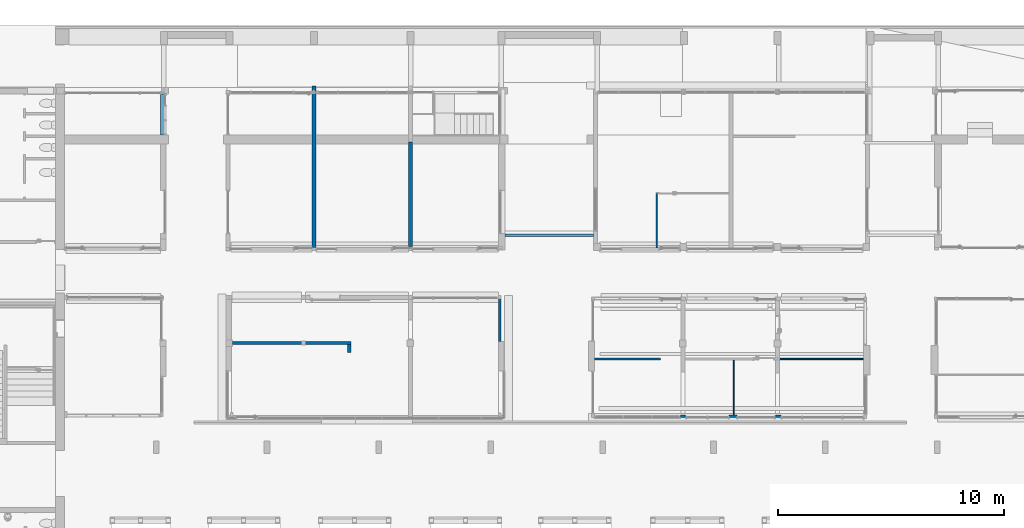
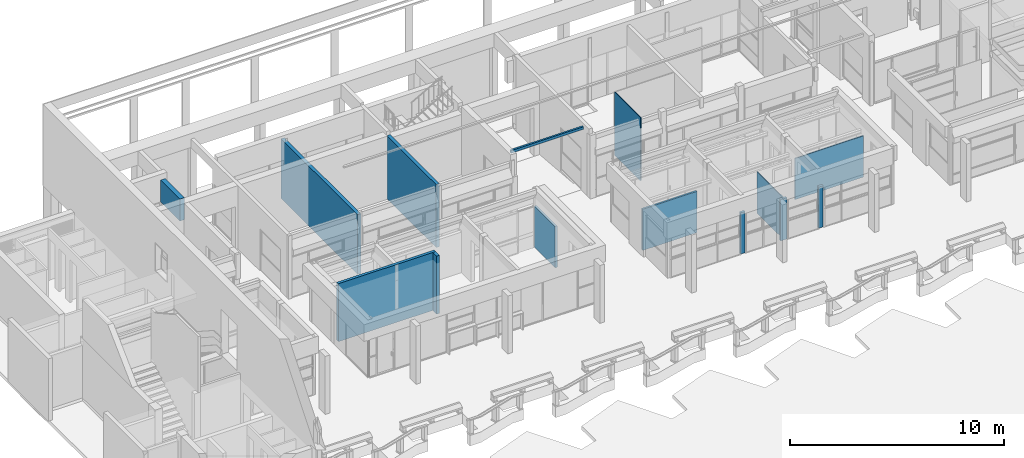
# One storey, part 68 of 117: 14 walls.
"""IFC4 building model written with IfcOpenShell, lengths in metres."""

from ifc_helpers import new_model, entity, si_unit, converted_unit, derived_unit, direction, frame, origin, place, context, subcontext, project, spatial, indexed_curve, outline, extrude, material, type_object, element, save


model = new_model("IFC4")

# Units and contexts
model_context = context("Model", 3, precision=1e-05, world=origin(), true_north=direction((6.123031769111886e-17, 1.0)))
body_context = subcontext(model_context, "Body", "Model", "MODEL_VIEW")
ifc_project = project(units=[si_unit("LENGTHUNIT", "METRE"), si_unit("AREAUNIT", "SQUARE_METRE"), si_unit("VOLUMEUNIT", "CUBIC_METRE"), converted_unit("PLANEANGLEUNIT", "DEGREE", entity("IfcRatioMeasure", 0.017453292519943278), si_unit("PLANEANGLEUNIT", "RADIAN"), dimensions=[0, 0, 0, 0, 0, 0, 0]), si_unit("MASSUNIT", "GRAM", prefix="KILO"), derived_unit("MASSDENSITYUNIT", [(si_unit("MASSUNIT", "GRAM", prefix="KILO"), 1), (si_unit("LENGTHUNIT", "METRE"), -3)]), derived_unit("MOMENTOFINERTIAUNIT", [(si_unit("LENGTHUNIT", "METRE"), 4)]), si_unit("TIMEUNIT", "SECOND"), si_unit("FREQUENCYUNIT", "HERTZ"), si_unit("THERMODYNAMICTEMPERATUREUNIT", "DEGREE_CELSIUS"), derived_unit("THERMALTRANSMITTANCEUNIT", [(si_unit("MASSUNIT", "GRAM", prefix="KILO"), 1), (si_unit("THERMODYNAMICTEMPERATUREUNIT", "KELVIN"), -1), (si_unit("TIMEUNIT", "SECOND"), -3)]), derived_unit("VOLUMETRICFLOWRATEUNIT", [(si_unit("LENGTHUNIT", "METRE"), 3), (si_unit("TIMEUNIT", "SECOND"), -1)]), derived_unit("MASSFLOWRATEUNIT", [(si_unit("MASSUNIT", "GRAM", prefix="KILO"), 1), (si_unit("TIMEUNIT", "SECOND"), -1)]), derived_unit("ROTATIONALFREQUENCYUNIT", [(si_unit("TIMEUNIT", "SECOND"), -1)]), si_unit("ELECTRICCURRENTUNIT", "AMPERE"), si_unit("ELECTRICVOLTAGEUNIT", "VOLT"), si_unit("POWERUNIT", "WATT"), si_unit("FORCEUNIT", "NEWTON", prefix="KILO"), si_unit("ILLUMINANCEUNIT", "LUX"), si_unit("LUMINOUSFLUXUNIT", "LUMEN"), si_unit("LUMINOUSINTENSITYUNIT", "CANDELA"), derived_unit("USERDEFINED", [(si_unit("MASSUNIT", "GRAM", prefix="KILO"), -1), (si_unit("LENGTHUNIT", "METRE"), -2), (si_unit("TIMEUNIT", "SECOND"), 3), (si_unit("LUMINOUSFLUXUNIT", "LUMEN"), 1)]), derived_unit("SOUNDPOWERUNIT", [(si_unit("MASSUNIT", "GRAM", prefix="KILO"), 1), (si_unit("LENGTHUNIT", "METRE"), 2), (si_unit("TIMEUNIT", "SECOND"), -3)]), derived_unit("SOUNDPRESSUREUNIT", [(si_unit("MASSUNIT", "GRAM", prefix="KILO"), 1), (si_unit("LENGTHUNIT", "METRE"), -1), (si_unit("TIMEUNIT", "SECOND"), -2)]), derived_unit("LINEARVELOCITYUNIT", [(si_unit("LENGTHUNIT", "METRE"), 1), (si_unit("TIMEUNIT", "SECOND"), -1)]), si_unit("PRESSUREUNIT", "PASCAL"), derived_unit("USERDEFINED", [(si_unit("LENGTHUNIT", "METRE"), -2), (si_unit("MASSUNIT", "GRAM", prefix="KILO"), 1), (si_unit("TIMEUNIT", "SECOND"), -2)]), derived_unit("LINEARFORCEUNIT", [(si_unit("MASSUNIT", "GRAM", prefix="KILO"), 1), (si_unit("LENGTHUNIT", "METRE"), 1), (si_unit("TIMEUNIT", "SECOND"), -2), (si_unit("LENGTHUNIT", "METRE"), -1)]), derived_unit("PLANARFORCEUNIT", [(si_unit("MASSUNIT", "GRAM", prefix="KILO"), 1), (si_unit("LENGTHUNIT", "METRE"), 1), (si_unit("TIMEUNIT", "SECOND"), -2), (si_unit("LENGTHUNIT", "METRE"), -2)])], contexts=[model_context])

# Site, building, storey
site_placement = place(None, origin())
site = spatial("IfcSite", under=ifc_project, at=site_placement, Name="Superficie", CompositionType="ELEMENT")
building_placement = place(site_placement, origin())
building = spatial("IfcBuilding", under=site, at=building_placement, CompositionType="ELEMENT")
storey_placement = place(building_placement, origin())
storey = spatial("IfcBuildingStorey", under=building, at=storey_placement, Name="Nivel 0", CompositionType="ELEMENT", Elevation=0.0)

# Walls
ifc_material = material(Name="Muro por defecto", Category="Varios")
wall_type_1 = type_object("IfcWallType", Name="Muro básico:Por defecto - 25 cm 2", PredefinedType="STANDARD")
wall_1_placement = place(storey_placement, frame((-18.26820098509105, 10.770829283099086, 2.35), z_axis=(0.0, 0.0, 1.0), x_axis=(0.0, 1.0, 0.0)))
element("IfcWall", 1, at=wall_1_placement, inside=storey, type_object=wall_type_1, material=ifc_material, Name="Muro básico:Por defecto - 25 cm 2", ObjectType="Muro básico:Por defecto - 25 cm 2", PredefinedType="NOTDEFINED", context=body_context, shape_type="SweptSolid", body=[
    extrude(outline(indexed_curve([(1.7999999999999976, 0.12499999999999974), (-1.503982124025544e-16, 0.12499999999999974), (1.503982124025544e-16, -0.12499999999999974), (1.7999999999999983, -0.12499999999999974), (1.7999999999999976, 0.12499999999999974)], self_intersect=False)), origin(), (0.0, 0.0, 1.0), 1.2499999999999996),
])
wall_type_2 = type_object("IfcWallType", Name="Muro básico:Por defecto - 18 cm 2", PredefinedType="STANDARD")
wall_2_placement = place(storey_placement, frame((-7.343200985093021, 5.833063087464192, 0.0), z_axis=(0.0, 0.0, 1.0), x_axis=(0.0, 1.0, 0.0)))
element("IfcWall", 2, at=wall_2_placement, inside=storey, type_object=wall_type_2, material=ifc_material, Name="Muro básico:Por defecto - 18 cm 2", ObjectType="Muro básico:Por defecto - 18 cm 2", PredefinedType="NOTDEFINED", context=body_context, shape_type="SweptSolid", body=[
    extrude(outline(indexed_curve([(4.609895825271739, 0.09000000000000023), (-1.503025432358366e-16, 0.09000000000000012), (1.503025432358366e-16, -0.09000000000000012), (4.609895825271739, -0.09), (4.609895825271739, 0.09000000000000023)], self_intersect=False)), origin(), (0.0, 0.0, 1.0), 3.5853943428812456),
])
wall_3_placement = place(storey_placement, frame((-11.613200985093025, 5.775829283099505, 0.0), z_axis=(0.0, 0.0, 1.0), x_axis=(0.0, 1.0, 0.0)))
element("IfcWall", 3, at=wall_3_placement, inside=storey, type_object=wall_type_2, material=ifc_material, Name="Muro básico:Por defecto - 18 cm 2", ObjectType="Muro básico:Por defecto - 18 cm 2", PredefinedType="NOTDEFINED", context=body_context, shape_type="SweptSolid", body=[
    extrude(outline(indexed_curve([(7.1421296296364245, 0.08999999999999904), (-1.3645515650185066e-16, 0.08999999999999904), (1.3645515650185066e-16, -0.08999999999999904), (7.1421296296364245, -0.08999999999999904), (7.1421296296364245, 0.08999999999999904)], self_intersect=False)), origin(), (0.0, 0.0, 1.0), 3.4),
])
wall_type_3 = type_object("IfcWallType", Name="Muro básico:Por defecto - 10 cm", PredefinedType="STANDARD")
wall_4_placement = place(storey_placement, frame((3.7167990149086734, 0.8558292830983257, 0.0), z_axis=(0.0, 0.0, 1.0), x_axis=(-1.0, 0.0, 0.0)))
element("IfcWall", 4, at=wall_4_placement, inside=storey, type_object=wall_type_3, material=ifc_material, Name="Muro básico:Por defecto - 10 cm", ObjectType="Muro básico:Por defecto - 10 cm", PredefinedType="NOTDEFINED", context=body_context, shape_type="SweptSolid", body=[
    extrude(outline(indexed_curve([(2.925000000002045, 0.04999999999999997), (-1.6145383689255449e-16, 0.05), (1.6145383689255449e-16, -0.05), (2.925000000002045, -0.05000000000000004), (2.925000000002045, 0.04999999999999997)], self_intersect=False)), origin(), (0.0, 0.0, 1.0), 2.35),
])
wall_5_placement = place(storey_placement, frame((0.7615520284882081, 6.32675029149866, 3.599999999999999), z_axis=(0.0, 0.0, 1.0), x_axis=(-1.0, 0.0, 0.0)))
element("IfcWall", 5, at=wall_5_placement, inside=storey, type_object=wall_type_3, material=ifc_material, Name="Muro básico:Por defecto - 10 cm", ObjectType="Muro básico:Por defecto - 10 cm", PredefinedType="NOTDEFINED", context=body_context, shape_type="SweptSolid", body=[
    extrude(outline(indexed_curve([(3.914753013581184, 0.050000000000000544), (-3.0608727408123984e-17, 0.050000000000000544), (3.0608727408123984e-17, -0.050000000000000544), (3.914753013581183, -0.050000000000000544), (3.914753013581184, 0.050000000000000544)], self_intersect=False)), origin(), (0.0, 0.0, 1.0), 0.15000000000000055),
])
wall_type_4 = type_object("IfcWallType", Name="Muro básico:Por defecto - 15 cm 2", PredefinedType="STANDARD")
wall_6_placement = place(storey_placement, frame((-15.218200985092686, 1.5608292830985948, 0.0)))
element("IfcWall", 6, at=wall_6_placement, inside=storey, type_object=wall_type_4, material=ifc_material, Name="Muro básico:Por defecto - 15 cm 2", ObjectType="Muro básico:Por defecto - 15 cm 2", PredefinedType="NOTDEFINED", context=body_context, shape_type="SweptSolid", body=[
    extrude(outline(indexed_curve([(5.245797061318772, 0.07499999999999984), (-2.415060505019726e-16, 0.07500000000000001), (2.415060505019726e-16, -0.07500000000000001), (5.245797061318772, -0.07500000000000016), (5.245797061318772, 0.07499999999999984)], self_intersect=False)), origin(), (0.0, 0.0, 1.0), 3.3),
])
wall_7_placement = place(storey_placement, frame((-10.047403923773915, 1.485829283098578, 0.0), z_axis=(0.0, 0.0, 1.0), x_axis=(0.0, -1.0, 0.0)))
element("IfcWall", 7, at=wall_7_placement, inside=storey, type_object=wall_type_4, material=ifc_material, Name="Muro básico:Por defecto - 15 cm 2", ObjectType="Muro básico:Por defecto - 15 cm 2", PredefinedType="NOTDEFINED", context=body_context, shape_type="SweptSolid", body=[
    extrude(outline(indexed_curve([(0.34999999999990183, 0.07500000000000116), (7.962258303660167e-17, 0.07500000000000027), (-7.962258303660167e-17, -0.07500000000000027), (0.34999999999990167, -0.07499999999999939), (0.34999999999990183, 0.07500000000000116)], self_intersect=False)), origin(), (0.0, 0.0, 1.0), 3.3),
])
wall_type_5 = type_object("IfcWallType", Name="Muro básico:Por defecto - 12 cm 2", PredefinedType="STANDARD")
wall_8_placement = place(storey_placement, frame((-3.393200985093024, 3.575829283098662, 0.0), z_axis=(0.0, 0.0, 1.0), x_axis=(0.0, -1.0, 0.0)))
element("IfcWall", 8, at=wall_8_placement, inside=storey, type_object=wall_type_5, material=ifc_material, Name="Muro básico:Por defecto - 12 cm 2", ObjectType="Muro básico:Por defecto - 12 cm 2", PredefinedType="NOTDEFINED", context=body_context, shape_type="SweptSolid", body=[
    extrude(outline(indexed_curve([(1.940000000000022, 0.05999999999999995), (-1.0205030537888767e-16, 0.059999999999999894), (1.0205030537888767e-16, -0.059999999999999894), (1.940000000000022, -0.059999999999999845), (1.940000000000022, 0.05999999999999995)], self_intersect=False)), origin(), (0.0, 0.0, 1.0), 2.35),
])
wall_9_placement = place(storey_placement, frame((8.806799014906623, -1.6741707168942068, 0.0)))
element("IfcWall", 9, at=wall_9_placement, inside=storey, type_object=wall_type_5, material=ifc_material, Name="Muro básico:Por defecto - 12 cm 2", ObjectType="Muro básico:Por defecto - 12 cm 2", PredefinedType="NOTDEFINED", context=body_context, shape_type="SweptSolid", body=[
    extrude(outline(indexed_curve([(0.23999999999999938, 0.05999999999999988), (-1.9929467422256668e-16, 0.059999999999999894), (1.9929467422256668e-16, -0.059999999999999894), (0.2399999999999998, -0.059999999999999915), (0.23999999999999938, 0.05999999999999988)], self_intersect=False)), origin(), (0.0, 0.0, 1.0), 2.35),
])
wall_10_placement = place(storey_placement, frame((4.596799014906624, -1.674170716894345, 0.0)))
element("IfcWall", 10, at=wall_10_placement, inside=storey, type_object=wall_type_5, material=ifc_material, Name="Muro básico:Por defecto - 12 cm 2", ObjectType="Muro básico:Por defecto - 12 cm 2", PredefinedType="NOTDEFINED", context=body_context, shape_type="SweptSolid", body=[
    extrude(outline(indexed_curve([(0.24000000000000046, 0.05999999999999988), (-1.9900874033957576e-16, 0.059999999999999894), (1.9900874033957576e-16, -0.059999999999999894), (0.24000000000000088, -0.059999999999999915), (0.24000000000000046, 0.05999999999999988)], self_intersect=False)), origin(), (0.0, 0.0, 1.0), 2.35),
])
wall_11_placement = place(storey_placement, frame((6.756799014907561, -1.6741707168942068, 0.0)))
element("IfcWall", 11, at=wall_11_placement, inside=storey, type_object=wall_type_5, material=ifc_material, Name="Muro básico:Por defecto - 12 cm 2", ObjectType="Muro básico:Por defecto - 12 cm 2", PredefinedType="NOTDEFINED", context=body_context, shape_type="SweptSolid", body=[
    extrude(outline(indexed_curve([(0.3399999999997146, 0.059999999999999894), (-1.9109419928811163e-16, 0.059999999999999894), (1.9109419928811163e-16, -0.059999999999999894), (0.33999999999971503, -0.059999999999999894), (0.3399999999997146, 0.059999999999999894)], self_intersect=False)), origin(), (0.0, 0.0, 1.0), 2.35),
])
wall_type_6 = type_object("IfcWallType", Name="Muro básico:Por defecto - 5 cm 2", PredefinedType="STANDARD")
wall_12_placement = place(storey_placement, frame((6.9567990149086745, 0.7958292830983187, 0.0), z_axis=(0.0, 0.0, 1.0), x_axis=(0.0, -1.0, 0.0)))
element("IfcWall", 12, at=wall_12_placement, inside=storey, type_object=wall_type_6, material=ifc_material, Name="Muro básico:Por defecto - 5 cm 2", ObjectType="Muro básico:Por defecto - 5 cm 2", PredefinedType="NOTDEFINED", context=body_context, shape_type="SweptSolid", body=[
    extrude(outline(indexed_curve([(2.4099999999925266, 0.024999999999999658), (-4.419865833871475e-17, 0.02499999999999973), (4.419865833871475e-17, -0.02499999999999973), (2.4099999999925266, -0.024999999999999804), (2.4099999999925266, 0.024999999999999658)], self_intersect=False)), origin(), (0.0, 0.0, 1.0), 2.35),
])
wall_13_placement = place(storey_placement, frame((9.00679901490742, 0.8558292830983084, 0.0)))
element("IfcWall", 13, at=wall_13_placement, inside=storey, type_object=wall_type_6, material=ifc_material, Name="Muro básico:Por defecto - 5 cm 2", ObjectType="Muro básico:Por defecto - 5 cm 2", PredefinedType="NOTDEFINED", context=body_context, shape_type="SweptSolid", body=[
    extrude(outline(indexed_curve([(3.689999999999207, 0.025000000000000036), (-8.00231998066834e-17, 0.025), (8.00231998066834e-17, -0.025), (3.689999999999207, -0.024999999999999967), (3.689999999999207, 0.025000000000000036)], self_intersect=False)), origin(), (0.0, 0.0, 1.0), 2.35),
])
wall_14_placement = place(storey_placement, frame((3.5565520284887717, 8.166739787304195, 0.0), z_axis=(0.0, 0.0, 1.0), x_axis=(0.0, -1.0, 0.0)))
element("IfcWall", 14, at=wall_14_placement, inside=storey, type_object=wall_type_6, material=ifc_material, Name="Muro básico:Por defecto - 5 cm 2", ObjectType="Muro básico:Por defecto - 5 cm 2", PredefinedType="NOTDEFINED", context=body_context, shape_type="SweptSolid", body=[
    extrude(outline(indexed_curve([(2.4000000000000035, 0.024999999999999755), (-3.975795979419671e-17, 0.02499999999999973), (3.975795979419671e-17, -0.02499999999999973), (2.4000000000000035, -0.024999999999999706), (2.4000000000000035, 0.024999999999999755)], self_intersect=False)), origin(), (0.0, 0.0, 1.0), 3.5999999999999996),
])

save(model, "model.ifc")
